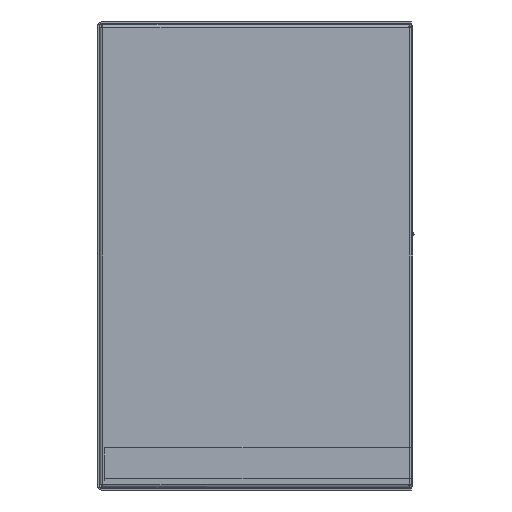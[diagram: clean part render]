
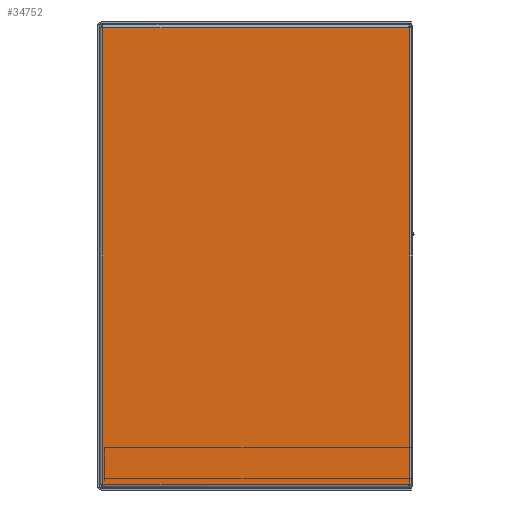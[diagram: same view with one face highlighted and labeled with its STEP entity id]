
A CAD part, left-side view. The second image highlights one B-rep face of the part: STEP entity #34752.
In plain terms, the highlighted planar face has unit normal (-1, 0, 0).
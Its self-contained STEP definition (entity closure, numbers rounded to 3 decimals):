
#280 = LINE ( 'NONE', #67653, #16739 ) ;
#1012 = ORIENTED_EDGE ( 'NONE', *, *, #32067, .F. ) ;
#5697 = VERTEX_POINT ( 'NONE', #49332 ) ;
#9262 = CARTESIAN_POINT ( 'NONE',  ( -255., 230., 170. ) ) ;
#12056 = AXIS2_PLACEMENT_3D ( 'NONE', #9262, #65153, #28003 ) ;
#16739 = VECTOR ( 'NONE', #79859, 1000. ) ;
#19000 = ORIENTED_EDGE ( 'NONE', *, *, #20879, .T. ) ;
#20759 = EDGE_CURVE ( 'NONE', #5697, #25939, #63475, .T. ) ;
#20879 = EDGE_CURVE ( 'NONE', #56233, #59221, #70240, .T. ) ;
#21234 = FACE_OUTER_BOUND ( 'NONE', #78258, .T. ) ;
#25939 = VERTEX_POINT ( 'NONE', #56692 ) ;
#28003 = DIRECTION ( 'NONE',  ( 0., -1., 0. ) ) ;
#29446 = CARTESIAN_POINT ( 'NONE',  ( -255., 2.4, 167.6 ) ) ;
#30476 = VECTOR ( 'NONE', #77476, 1000. ) ;
#32067 = EDGE_CURVE ( 'NONE', #56233, #25939, #280, .T. ) ;
#34322 = CARTESIAN_POINT ( 'NONE',  ( -255., 227.6, -167.6 ) ) ;
#34752 = ADVANCED_FACE ( 'NONE', ( #21234 ), #58940, .T. ) ;
#34850 = EDGE_CURVE ( 'NONE', #59221, #5697, #42941, .T. ) ;
#35525 = CARTESIAN_POINT ( 'NONE',  ( -255., 2.4, 167.6 ) ) ;
#35646 = DIRECTION ( 'NONE',  ( 0., 1., 0. ) ) ;
#37204 = VECTOR ( 'NONE', #35646, 1000. ) ;
#41161 = DIRECTION ( 'NONE',  ( 0., 0., -1. ) ) ;
#42245 = ORIENTED_EDGE ( 'NONE', *, *, #34850, .T. ) ;
#42941 = LINE ( 'NONE', #65883, #74089 ) ;
#43789 = ORIENTED_EDGE ( 'NONE', *, *, #20759, .T. ) ;
#49332 = CARTESIAN_POINT ( 'NONE',  ( -255., 227.6, -167.6 ) ) ;
#56233 = VERTEX_POINT ( 'NONE', #35525 ) ;
#56692 = CARTESIAN_POINT ( 'NONE',  ( -255., 2.4, -167.6 ) ) ;
#58940 = PLANE ( 'NONE',  #12056 ) ;
#59221 = VERTEX_POINT ( 'NONE', #77229 ) ;
#63475 = LINE ( 'NONE', #34322, #30476 ) ;
#65153 = DIRECTION ( 'NONE',  ( -1., 0., 0. ) ) ;
#65883 = CARTESIAN_POINT ( 'NONE',  ( -255., 227.6, 170. ) ) ;
#67653 = CARTESIAN_POINT ( 'NONE',  ( -255., 2.4, 170. ) ) ;
#70240 = LINE ( 'NONE', #29446, #37204 ) ;
#74089 = VECTOR ( 'NONE', #41161, 1000. ) ;
#77229 = CARTESIAN_POINT ( 'NONE',  ( -255., 227.6, 167.6 ) ) ;
#77476 = DIRECTION ( 'NONE',  ( 0., -1., 0. ) ) ;
#78258 = EDGE_LOOP ( 'NONE', ( #42245, #43789, #1012, #19000 ) ) ;
#79859 = DIRECTION ( 'NONE',  ( 0., 0., -1. ) ) ;
